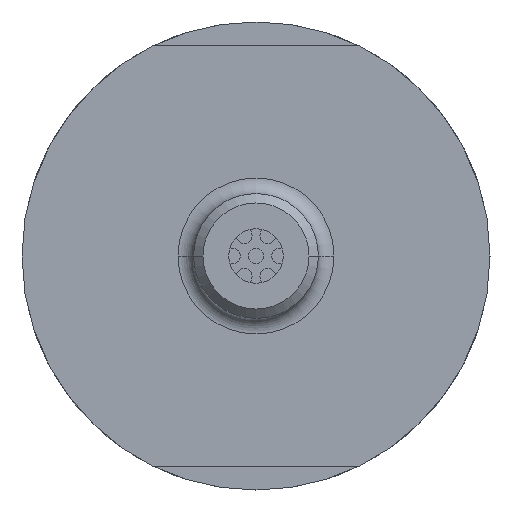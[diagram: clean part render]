
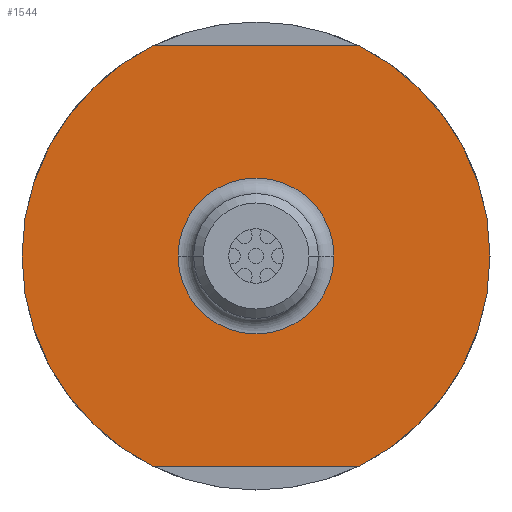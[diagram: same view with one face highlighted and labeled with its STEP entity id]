
A CAD part, front view. The second image highlights one B-rep face of the part: STEP entity #1544.
In plain terms, the highlighted planar face has unit normal (0, -1, 0).
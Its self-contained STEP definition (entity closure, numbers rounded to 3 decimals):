
#18 = EDGE_LOOP ( 'NONE', ( #1229, #1571, #557, #1478, #1012, #1144 ) ) ;
#37 = DIRECTION ( 'NONE',  ( 1., 0., 0. ) ) ;
#59 = DIRECTION ( 'NONE',  ( 1., 0., 0. ) ) ;
#75 = CIRCLE ( 'NONE', #1233, 15. ) ;
#106 = CARTESIAN_POINT ( 'NONE',  ( 0., 0.091, 0. ) ) ;
#169 = EDGE_CURVE ( 'NONE', #360, #434, #1561, .T. ) ;
#201 = DIRECTION ( 'NONE',  ( 0., -1., 0. ) ) ;
#234 = DIRECTION ( 'NONE',  ( 0., -1., 0. ) ) ;
#235 = DIRECTION ( 'NONE',  ( 1., 0., 0. ) ) ;
#239 = ORIENTED_EDGE ( 'NONE', *, *, #710, .F. ) ;
#308 = LINE ( 'NONE', #919, #1646 ) ;
#340 = CARTESIAN_POINT ( 'NONE',  ( 0., 0.091, 0. ) ) ;
#346 = CARTESIAN_POINT ( 'NONE',  ( 6.538, 0.091, 13.5 ) ) ;
#356 = VERTEX_POINT ( 'NONE', #346 ) ;
#360 = VERTEX_POINT ( 'NONE', #1078 ) ;
#390 = CIRCLE ( 'NONE', #746, 5. ) ;
#398 = CARTESIAN_POINT ( 'NONE',  ( -6.538, 0.091, -13.5 ) ) ;
#411 = FACE_OUTER_BOUND ( 'NONE', #18, .T. ) ;
#434 = VERTEX_POINT ( 'NONE', #398 ) ;
#439 = DIRECTION ( 'NONE',  ( 0., -1., 0. ) ) ;
#472 = DIRECTION ( 'NONE',  ( 1., 0., 0. ) ) ;
#526 = CARTESIAN_POINT ( 'NONE',  ( 5., 0.091, 0. ) ) ;
#535 = EDGE_LOOP ( 'NONE', ( #1031, #239 ) ) ;
#557 = ORIENTED_EDGE ( 'NONE', *, *, #962, .T. ) ;
#570 = EDGE_CURVE ( 'NONE', #360, #1189, #1580, .T. ) ;
#585 = VERTEX_POINT ( 'NONE', #1467 ) ;
#591 = EDGE_CURVE ( 'NONE', #949, #798, #849, .T. ) ;
#593 = DIRECTION ( 'NONE',  ( 1., 0., 0. ) ) ;
#614 = VERTEX_POINT ( 'NONE', #951 ) ;
#710 = EDGE_CURVE ( 'NONE', #798, #949, #390, .T. ) ;
#746 = AXIS2_PLACEMENT_3D ( 'NONE', #340, #1238, #472 ) ;
#760 = EDGE_CURVE ( 'NONE', #614, #585, #990, .T. ) ;
#798 = VERTEX_POINT ( 'NONE', #1129 ) ;
#822 = DIRECTION ( 'NONE',  ( 0., -1., 0. ) ) ;
#849 = CIRCLE ( 'NONE', #1300, 5. ) ;
#854 = AXIS2_PLACEMENT_3D ( 'NONE', #106, #995, #235 ) ;
#862 = VECTOR ( 'NONE', #1087, 1000. ) ;
#919 = CARTESIAN_POINT ( 'NONE',  ( 0., 0.091, 13.5 ) ) ;
#949 = VERTEX_POINT ( 'NONE', #526 ) ;
#951 = CARTESIAN_POINT ( 'NONE',  ( -6.538, 0.091, 13.5 ) ) ;
#956 = CARTESIAN_POINT ( 'NONE',  ( 0., 0.091, 0. ) ) ;
#962 = EDGE_CURVE ( 'NONE', #585, #434, #75, .T. ) ;
#990 = CIRCLE ( 'NONE', #1351, 15. ) ;
#994 = CARTESIAN_POINT ( 'NONE',  ( 0., 0.091, 0. ) ) ;
#995 = DIRECTION ( 'NONE',  ( 0., -1., 0. ) ) ;
#1012 = ORIENTED_EDGE ( 'NONE', *, *, #570, .T. ) ;
#1031 = ORIENTED_EDGE ( 'NONE', *, *, #591, .F. ) ;
#1051 = AXIS2_PLACEMENT_3D ( 'NONE', #1101, #1369, #593 ) ;
#1078 = CARTESIAN_POINT ( 'NONE',  ( 6.538, 0.091, -13.5 ) ) ;
#1087 = DIRECTION ( 'NONE',  ( -1., 0., 0. ) ) ;
#1090 = FACE_BOUND ( 'NONE', #535, .T. ) ;
#1092 = DIRECTION ( 'NONE',  ( 1., 0., 0. ) ) ;
#1096 = EDGE_CURVE ( 'NONE', #1189, #356, #1230, .T. ) ;
#1101 = CARTESIAN_POINT ( 'NONE',  ( 0., 0.091, 0. ) ) ;
#1123 = DIRECTION ( 'NONE',  ( 1., 0., 0. ) ) ;
#1129 = CARTESIAN_POINT ( 'NONE',  ( -5., 0.091, 0. ) ) ;
#1144 = ORIENTED_EDGE ( 'NONE', *, *, #1096, .T. ) ;
#1189 = VERTEX_POINT ( 'NONE', #1532 ) ;
#1202 = CARTESIAN_POINT ( 'NONE',  ( 0., 0.091, 0. ) ) ;
#1206 = AXIS2_PLACEMENT_3D ( 'NONE', #1594, #822, #59 ) ;
#1214 = CARTESIAN_POINT ( 'NONE',  ( 0., 0.091, -13.5 ) ) ;
#1229 = ORIENTED_EDGE ( 'NONE', *, *, #1407, .F. ) ;
#1230 = CIRCLE ( 'NONE', #854, 15. ) ;
#1233 = AXIS2_PLACEMENT_3D ( 'NONE', #956, #201, #1092 ) ;
#1238 = DIRECTION ( 'NONE',  ( 0., -1., 0. ) ) ;
#1300 = AXIS2_PLACEMENT_3D ( 'NONE', #1202, #439, #1338 ) ;
#1338 = DIRECTION ( 'NONE',  ( 1., 0., 0. ) ) ;
#1351 = AXIS2_PLACEMENT_3D ( 'NONE', #994, #234, #1123 ) ;
#1369 = DIRECTION ( 'NONE',  ( 0., -1., 0. ) ) ;
#1407 = EDGE_CURVE ( 'NONE', #614, #356, #308, .T. ) ;
#1467 = CARTESIAN_POINT ( 'NONE',  ( -15., 0.091, 0. ) ) ;
#1478 = ORIENTED_EDGE ( 'NONE', *, *, #169, .F. ) ;
#1494 = PLANE ( 'NONE',  #1051 ) ;
#1532 = CARTESIAN_POINT ( 'NONE',  ( 15., 0.091, 0. ) ) ;
#1544 = ADVANCED_FACE ( 'NONE', ( #411, #1090 ), #1494, .T. ) ;
#1561 = LINE ( 'NONE', #1214, #862 ) ;
#1571 = ORIENTED_EDGE ( 'NONE', *, *, #760, .T. ) ;
#1580 = CIRCLE ( 'NONE', #1206, 15. ) ;
#1594 = CARTESIAN_POINT ( 'NONE',  ( 0., 0.091, 0. ) ) ;
#1646 = VECTOR ( 'NONE', #37, 1000. ) ;
